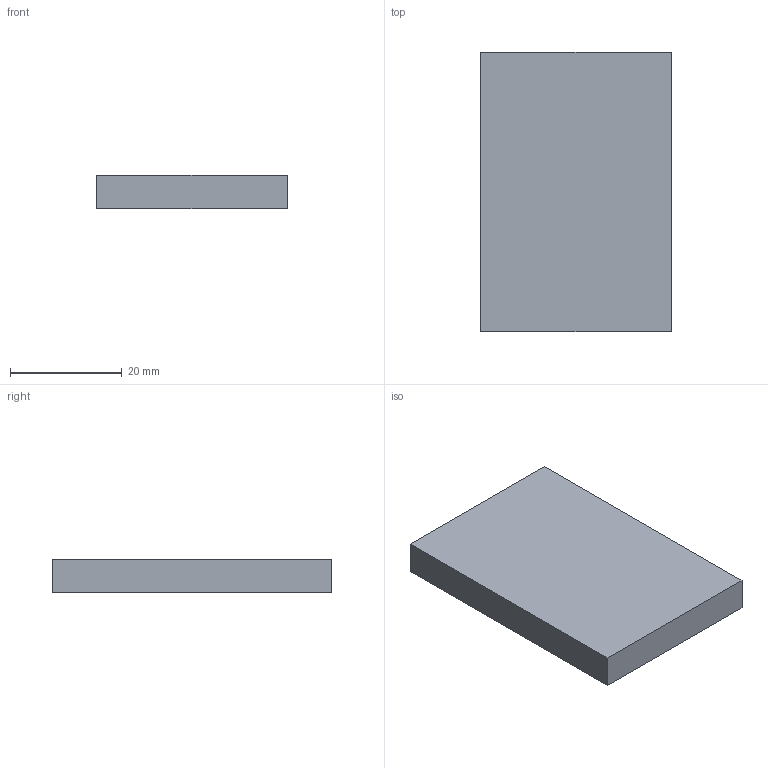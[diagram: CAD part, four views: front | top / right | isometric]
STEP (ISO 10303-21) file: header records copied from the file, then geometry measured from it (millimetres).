
FILE_DESCRIPTION(('Open CASCADE Model'),'2;1');
FILE_NAME('Open CASCADE Shape Model','2026-09-08T07:38:30',('Author'),( 'Open CASCADE'),'Open CASCADE STEP processor 7.9','Open CASCADE 7.9' ,'Unknown');
FILE_SCHEMA(('AUTOMOTIVE_DESIGN { 1 0 10303 214 1 1 1 1 }'));
Length unit declared in the file: millimetre
Products named in the file (1): COMPOUND
Bounding box: 34 x 50 x 6 mm (x, y, z)
Volume: 10200 mm3; surface area: 4408 mm2
Topology: 1 solids, 1 shells, 6 faces, 12 edges, 8 vertices
Faces by surface type: plane 6
Entity records: 338 total; most frequent: CARTESIAN_POINT 51, DIRECTION 50, LINE 36, VECTOR 36, ORIENTED_EDGE 24, PCURVE 24, DEFINITIONAL_REPRESENTATION 24, EDGE_CURVE 12
